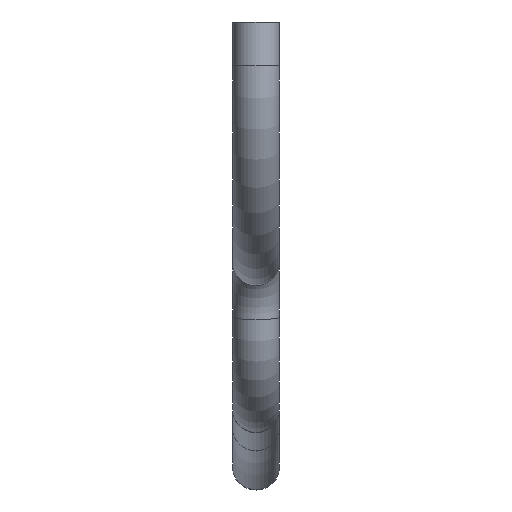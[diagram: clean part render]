
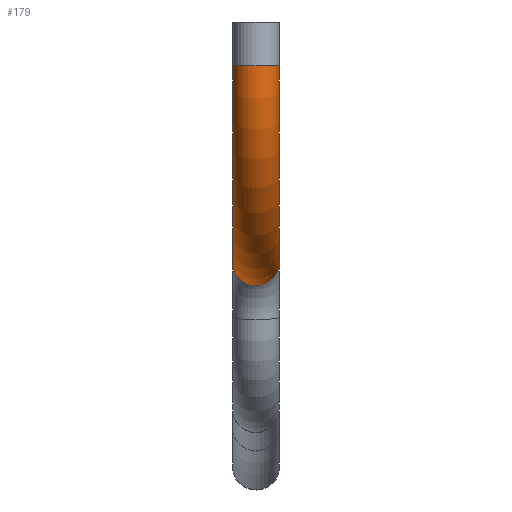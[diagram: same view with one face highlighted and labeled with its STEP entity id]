
A CAD part, left-side view. The second image highlights one B-rep face of the part: STEP entity #179.
In plain terms, the highlighted toroidal (fillet/blend) face has major radius 110.105 mm and minor radius 13 mm.
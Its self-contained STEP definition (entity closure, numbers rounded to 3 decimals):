
#28=FACE_BOUND('',#67,.T.);
#42=FACE_OUTER_BOUND('',#66,.T.);
#66=EDGE_LOOP('',(#136));
#67=EDGE_LOOP('',(#137));
#85=CIRCLE('',#212,13.);
#86=CIRCLE('',#214,13.);
#99=VERTEX_POINT('',#310);
#100=VERTEX_POINT('',#313);
#113=EDGE_CURVE('',#99,#99,#85,.T.);
#114=EDGE_CURVE('',#100,#100,#86,.T.);
#136=ORIENTED_EDGE('',*,*,#113,.F.);
#137=ORIENTED_EDGE('',*,*,#114,.T.);
#153=TOROIDAL_SURFACE('',#213,110.105,13.);
#179=ADVANCED_FACE('',(#42,#28),#153,.T.);
#212=AXIS2_PLACEMENT_3D('',#311,#263,#264);
#213=AXIS2_PLACEMENT_3D('',#312,#265,#266);
#214=AXIS2_PLACEMENT_3D('',#314,#267,#268);
#263=DIRECTION('center_axis',(0.922,0.,0.388));
#264=DIRECTION('ref_axis',(0.388,0.,-0.922));
#265=DIRECTION('center_axis',(0.,-1.,0.));
#266=DIRECTION('ref_axis',(0.,0.,-1.));
#267=DIRECTION('center_axis',(0.,0.,-1.));
#268=DIRECTION('ref_axis',(-1.,0.,0.));
#310=CARTESIAN_POINT('',(-102.221,0.,-88.862));
#311=CARTESIAN_POINT('Origin',(-97.178,0.,-100.844));
#312=CARTESIAN_POINT('Origin',(-139.895,0.,0.637));
#313=CARTESIAN_POINT('',(-237.,0.,0.637));
#314=CARTESIAN_POINT('Origin',(-250.,0.,0.637));
